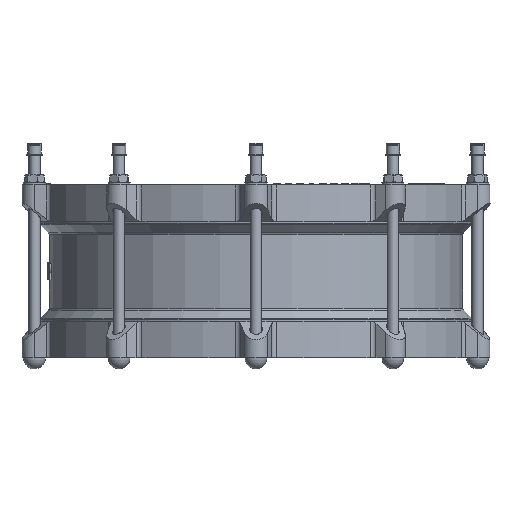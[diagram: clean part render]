
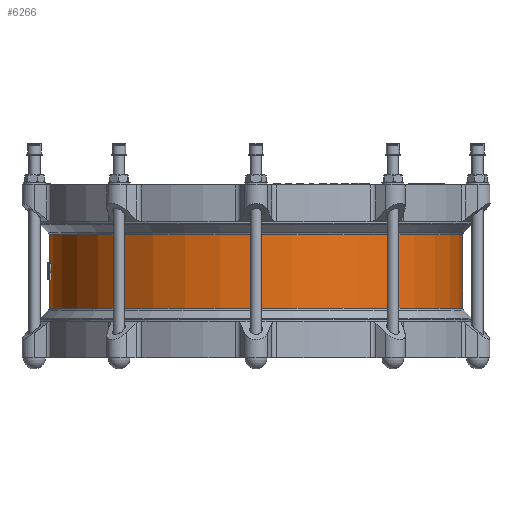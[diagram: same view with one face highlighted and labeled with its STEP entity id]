
A CAD part, left-side view. The second image highlights one B-rep face of the part: STEP entity #6266.
In plain terms, the highlighted cylindrical face has radius 261 mm (diameter 522 mm), a full revolution.
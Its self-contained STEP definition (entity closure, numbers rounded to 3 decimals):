
#6266=ADVANCED_FACE('',(#11689,#11691),#11693,.T.);
#11689=FACE_OUTER_BOUND('',#11690,.T.);
#11690=EDGE_LOOP('',(#17349));
#11691=FACE_OUTER_BOUND('',#11692,.T.);
#11692=EDGE_LOOP('',(#17350));
#11693=CYLINDRICAL_SURFACE('',#11694,261.);
#11694=AXIS2_PLACEMENT_3D('',#11695,#11696,#11697);
#11695=CARTESIAN_POINT('',(0.,0.,47.8));
#11696=DIRECTION('',(0.,0.,-1.));
#11697=DIRECTION('',(0.,1.,0.));
#17349=ORIENTED_EDGE('',*,*,#19751,.T.);
#17350=ORIENTED_EDGE('',*,*,#19752,.F.);
#19751=EDGE_CURVE('',#23103,#23103,#23104,.T.);
#19752=EDGE_CURVE('',#23105,#23105,#23106,.T.);
#23103=VERTEX_POINT('',#36498);
#23104=CIRCLE('',#36499,261.);
#23105=VERTEX_POINT('',#36503);
#23106=CIRCLE('',#36504,261.);
#36498=CARTESIAN_POINT('',(0.,261.,46.351));
#36499=AXIS2_PLACEMENT_3D('',#36500,#36501,#36502);
#36500=CARTESIAN_POINT('',(0.,0.,46.351));
#36501=DIRECTION('',(0.,0.,-1.));
#36502=DIRECTION('',(0.,1.,0.));
#36503=CARTESIAN_POINT('',(0.,261.,-46.351));
#36504=AXIS2_PLACEMENT_3D('',#36505,#36506,#36507);
#36505=CARTESIAN_POINT('',(0.,0.,-46.351));
#36506=DIRECTION('',(0.,0.,-1.));
#36507=DIRECTION('',(0.,1.,0.));
